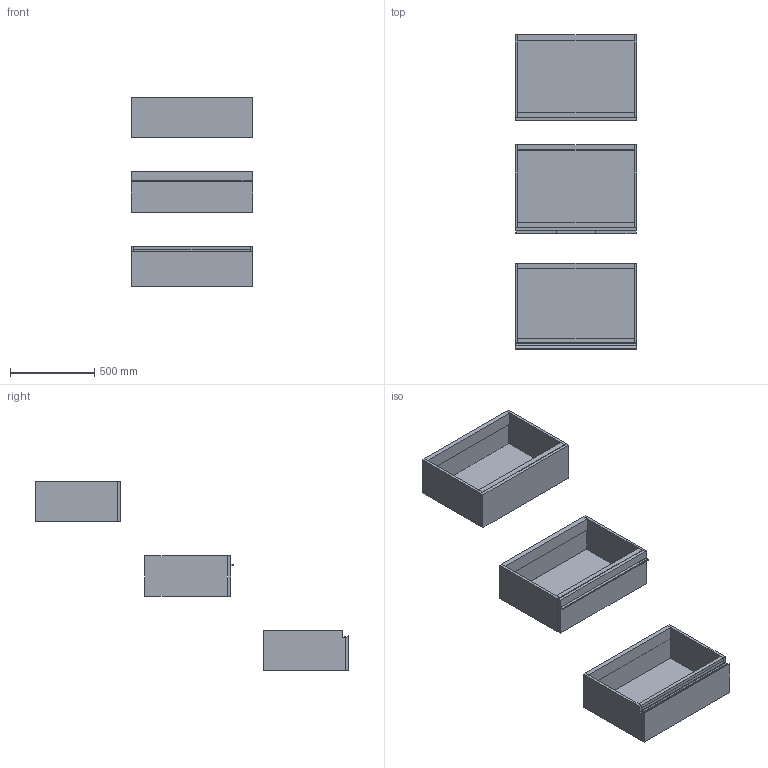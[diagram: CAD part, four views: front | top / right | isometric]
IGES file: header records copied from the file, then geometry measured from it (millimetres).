
Start section: Data from Parasolid IGES Translator 19.0.9, Copyright(c) 2006 Siemens PL M Software. All Rights Reserved.
Global section: file name: noorth-SI-H 24 D 51 W 72_8303.igs; native system: By Siemens PLM Incorporated; preprocessor: XPlus GENERIC/IGES 19.0.9; author: Noname; organization: Noname; date: 20200530.115957; units: metre
Bounding box: 720 x 1857.1 x 1120.01 mm (x, y, z)
Volume: 43851711.2 mm3; surface area: 6400393.5 mm2
Topology: 23 solids, 23 shells, 196 faces, 418 edges, 258 vertices
Faces by surface type: plane 152, extrusion 16, bspline 16, cylinder 12
